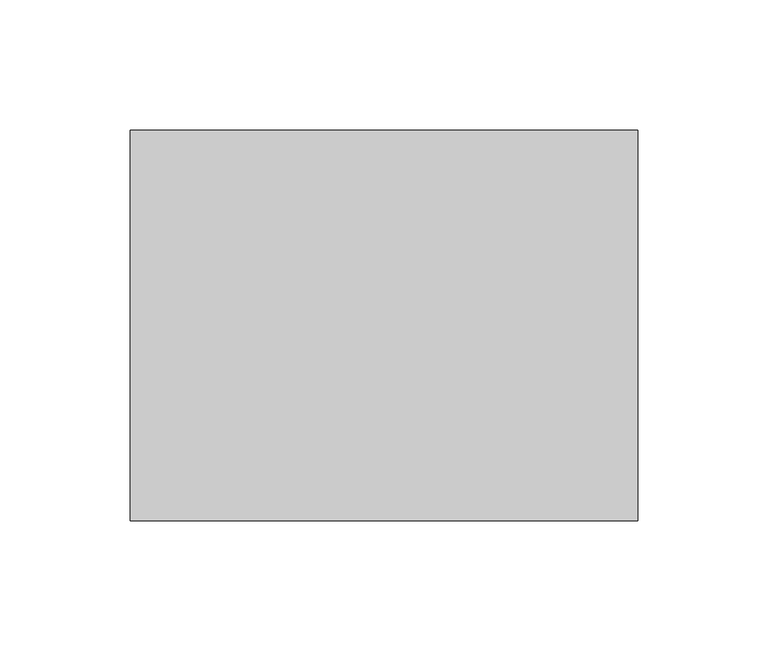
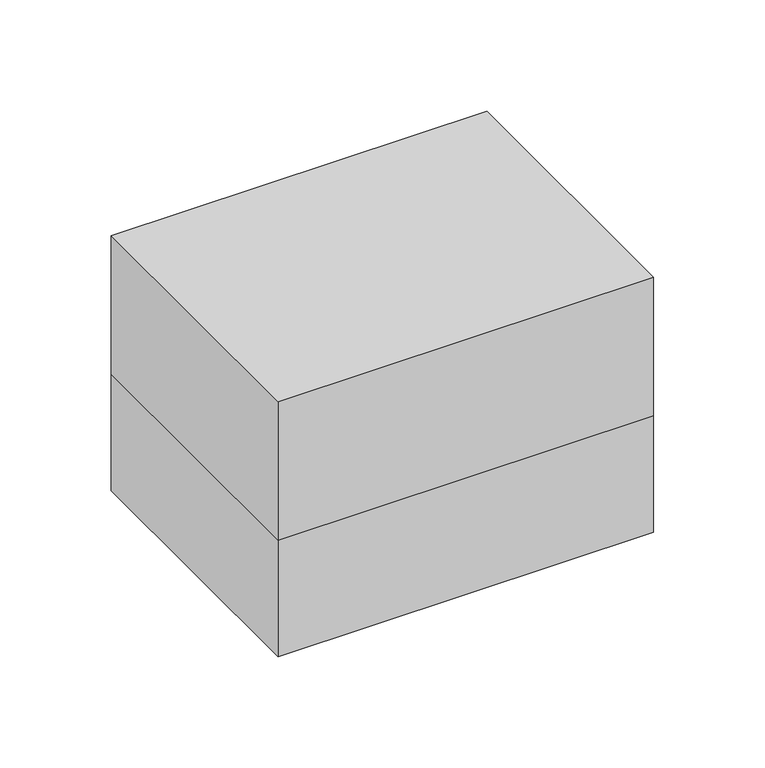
"""IFC4 building model written with IfcOpenShell, lengths in millimetres: cable carrier fitting geometry."""

from ifc_helpers import new_model, si_unit, origin, place, context, project, spatial, faceted_brep, source, transform, mapped, element, save


def cable_carrier_fitting_3680dad2(model_context):
    return source(origin(), model_context, "Body", "Brep", [
        faceted_brep([(97.5, 75.0, 140.0), (-97.5, 75.0, 140.0), (-97.5, -75.0, 140.0), (97.5, -75.0, 140.0), (-95.5, -73.0, 138.0), (-95.5, 73.0, 138.0), (95.5, 73.0, 138.0), (95.5, -73.0, 138.0), (97.5, 75.0, 64.0), (97.5, -75.0, 64.0), (-97.5, -75.0, 64.0), (-97.5, 75.0, 64.0), (-95.5, -73.0, 64.0), (95.5, -73.0, 64.0), (95.5, 73.0, 64.0), (-95.5, 73.0, 64.0)], [[[0, 1, 2, 3]], [[4, 5, 6, 7]], [[8, 9, 10, 11], [12, 13, 14, 15]], [[1, 0, 8, 11]], [[2, 1, 11, 10]], [[3, 2, 10, 9]], [[0, 3, 9, 8]], [[12, 15, 5, 4]], [[15, 14, 6, 5]], [[14, 13, 7, 6]], [[13, 12, 4, 7]]]),
        faceted_brep([(-95.5, -73.0, 2.0), (95.5, -73.0, 2.0), (95.5, 73.0, 2.0), (-95.5, 73.0, 2.0), (97.5, 75.0, 0.0), (97.5, -75.0, 0.0), (-97.5, -75.0, 0.0), (-97.5, 75.0, 0.0), (97.5, 75.0, 64.0), (-97.5, 75.0, 64.0), (-97.5, -75.0, 64.0), (97.5, -75.0, 64.0), (95.5, -73.0, 64.0), (-95.5, -73.0, 64.0), (-95.5, 73.0, 64.0), (95.5, 73.0, 64.0)], [[[0, 1, 2, 3]], [[4, 5, 6, 7]], [[8, 9, 10, 11], [12, 13, 14, 15]], [[9, 8, 4, 7]], [[10, 9, 7, 6]], [[11, 10, 6, 5]], [[8, 11, 5, 4]], [[13, 12, 1, 0]], [[14, 13, 0, 3]], [[15, 14, 3, 2]], [[12, 15, 2, 1]]]),
    ])


if __name__ == "__main__":
    model = new_model("IFC4")
    model_context = context("Model", 3, world=origin())
    ifc_project = project(units=[si_unit("LENGTHUNIT", "METRE", prefix="MILLI")], contexts=[model_context])
    site = spatial("IfcSite", under=ifc_project)
    building = spatial("IfcBuilding", under=site)
    placement = place(None, origin())
    cable_carrier_fitting_shape = cable_carrier_fitting_3680dad2(model_context)
    element("IfcCableCarrierFitting", 1, at=placement, inside=building, context=model_context, shape_type="MappedRepresentation", body=[
        mapped(cable_carrier_fitting_shape, transform((0.0, 0.0, 0.0), x_axis=(1.0, 0.0, 0.0), y_axis=(0.0, 1.0, 0.0), z_axis=(0.0, 0.0, 1.0))),
    ])
    save(model, "model.ifc")
